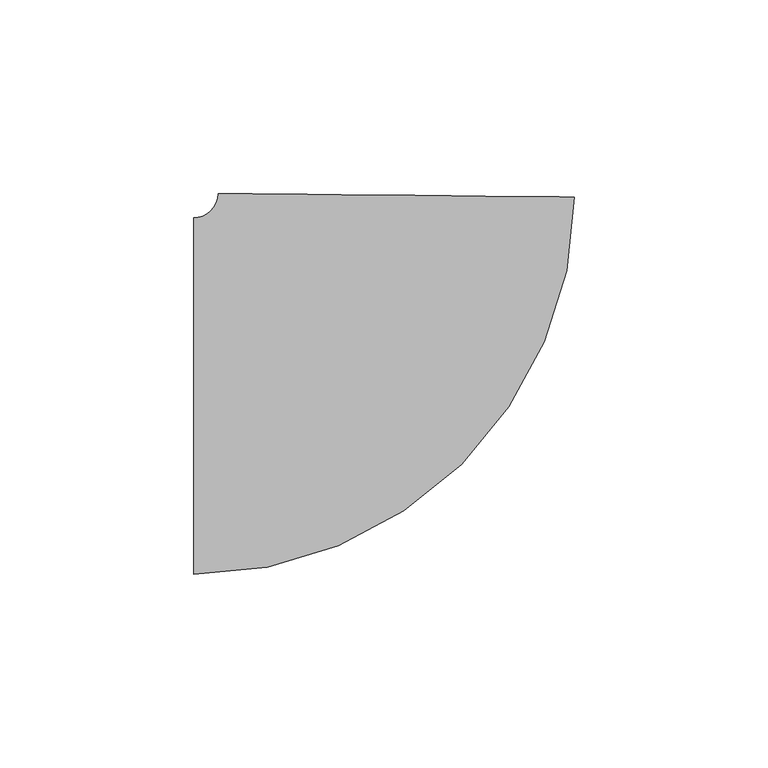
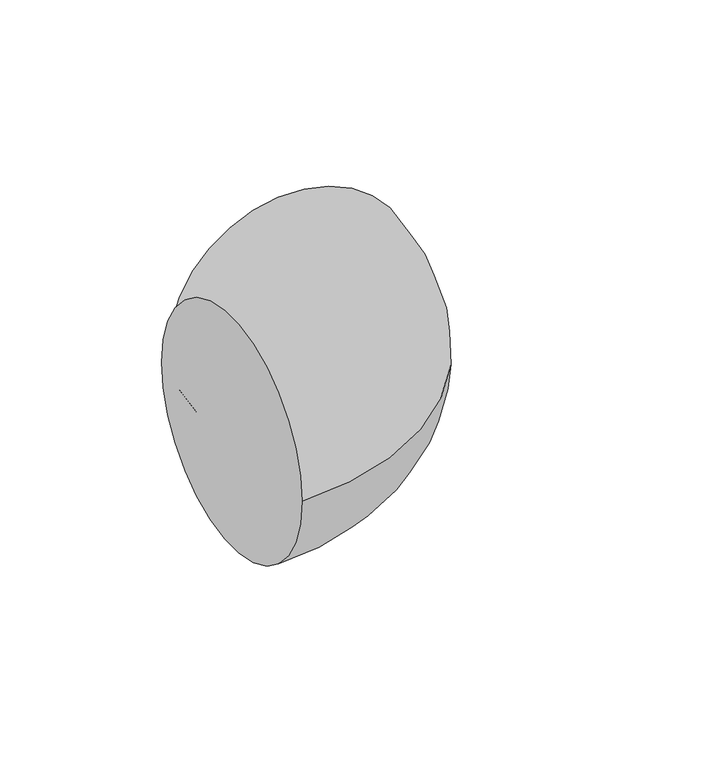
"""IFC4 building model written with IfcOpenShell, lengths in millimetres: pipe fitting geometry, M_Codo - Genérico : Estándar."""

from ifc_helpers import new_model, si_unit, point, frame, origin, place, context, project, spatial, circle_curve, ellipse_curve, trimmed, source, transform, mapped, element, save
from ifc_brep_helpers import plane_surface, revolved_surface, advanced_brep


def pipe_fitting_e662684b(model_context):
    return source(origin(), model_context, "Body", "AdvancedBrep", [
        advanced_brep(
        [(-51.8654612, -46.0375, 0.0), (-51.8654612, 46.0375, 0.0), (46.554603, 51.4018134, 0.0), (-45.5157797, 52.3239073, 0.0)],
        [
            (0, 1, circle_curve(frame((-51.8654612, 0.0, 0.0), z_axis=(-1.0, 0.0, 0.0), x_axis=(0.0, 1.0, 0.0)), 46.0375)),
            (1, 0, circle_curve(frame((-51.8654612, 0.0, 0.0), z_axis=(-1.0, 0.0, 0.0), x_axis=(0.0, 1.0, 0.0)), 46.0375)),
            (2, 3, circle_curve(frame((0.5194117, 51.8628603, 0.0), z_axis=(0.010014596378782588, 0.9999498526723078, 0.0), x_axis=(-0.9999498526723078, 0.010014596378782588, 0.0)), 46.0375)),
            (3, 2, circle_curve(frame((0.5194117, 51.8628603, 0.0), z_axis=(0.010014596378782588, 0.9999498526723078, 0.0), x_axis=(-0.9999498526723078, 0.010014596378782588, 0.0)), 46.0375)),
            (3, 1, circle_curve(frame((-51.8654612, 52.3875, 0.0), z_axis=(0.0, 0.0, -1.0), x_axis=(0.0, -1.0, 0.0)), 6.35)),
            (0, 2, circle_curve(frame((-51.8654612, 52.3875, 0.0), z_axis=(0.0, 0.0, 1.0), x_axis=(0.0, -1.0, 0.0)), 98.425)),
        ],
        [
            plane_surface(frame((-51.8654612, 0.0, 0.0), z_axis=(-1.0, 0.0, 0.0), x_axis=(0.0, 0.0, 1.0))),
            plane_surface(frame((0.5194117, 51.8628603, 0.0), z_axis=(0.010014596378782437, 0.9999498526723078, 0.0), x_axis=(0.0, 0.0, 1.0))),
            revolved_surface(trimmed(ellipse_curve(frame((-51.8654612, 0.0, 0.0), z_axis=(-1.0, 0.0, 0.0), x_axis=(0.0, 1.0, 0.0)), 46.0375, 46.0375), [point((-51.8654612, -46.0375, 0.0))], [point((-51.8654612, 46.0375, 0.0))], True, "CARTESIAN"), (-51.8654612, 52.3875, 0.0), (0.0, 0.0, 1.0)),
            revolved_surface(trimmed(ellipse_curve(frame((-51.8654612, 0.0, 0.0), z_axis=(-1.0, 0.0, 0.0), x_axis=(0.0, 1.0, 0.0)), 46.0375, 46.0375), [point((-51.8654612, 46.0375, 0.0))], [point((-51.8654612, -46.0375, 0.0))], True, "CARTESIAN"), (-51.8654612, 52.3875, 0.0), (0.0, 0.0, 1.0)),
        ],
        [
            (0, [[1, 2]]),
            (1, [[3, 4]]),
            (2, [[5, -1, 6, -4]]),
            (3, [[-6, -2, -5, -3]]),
        ],
    ),
    ])


if __name__ == "__main__":
    model = new_model("IFC4")
    model_context = context("Model", 3, world=origin())
    ifc_project = project(units=[si_unit("LENGTHUNIT", "METRE", prefix="MILLI")], contexts=[model_context])
    site = spatial("IfcSite", under=ifc_project)
    building = spatial("IfcBuilding", under=site)
    placement = place(None, origin())
    pipe_fitting_shape = pipe_fitting_e662684b(model_context)
    element("IfcPipeFitting", 1, ObjectType="M_Codo - Genérico : Estándar", at=placement, inside=building, context=model_context, shape_type="MappedRepresentation", body=[
        mapped(pipe_fitting_shape, transform((0.0, 0.0, 0.0), x_axis=(1.0, 0.0, 0.0), y_axis=(0.0, 1.0, 0.0), z_axis=(0.0, 0.0, 1.0))),
    ])
    save(model, "model.ifc")
